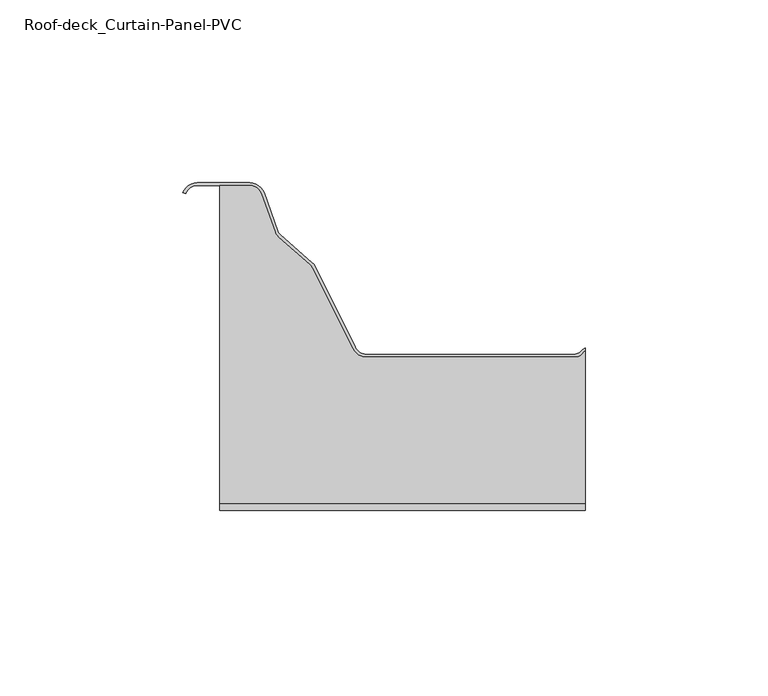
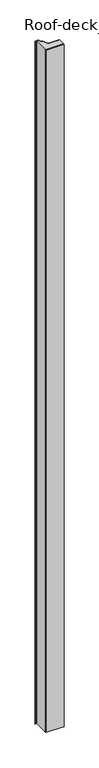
"""IFC4 building model written with IfcOpenShell, lengths in millimetres: plate geometry, Roof-deck_Curtain-Panel-PVC : ACH_Roof deck_MW_40 mm."""

from ifc_helpers import new_model, si_unit, point, frame_2d, origin, origin_with_axes, place, context, project, spatial, polyline, circle_curve, trimmed, segment, composite_curve, outline, extrude, source, transform, mapped, element, save


def roof_deck_curtain_panel_pvc_dbc530cd(model_context):
    return source(origin(), model_context, "Body", "SweptSolid", [
        extrude(outline(composite_curve([segment(polyline([(-50.0, -88.8), (-50.0, -1.8), (-41.8323638, -1.8)]), True, "CONTINUOUS"), segment(trimmed(circle_curve(frame_2d((-41.8323638, -5.2)), 3.4), [point((-41.8323638, -1.8))], [point((-38.6330749, -4.0491088))], False, "CARTESIAN"), True, "CONTINUOUS"), segment(polyline([(-38.6330749, -4.0491088), (-34.8455616, -14.5777749)]), True, "CONTINUOUS"), segment(trimmed(circle_curve(frame_2d((-31.9285629, -13.5284329)), 3.1), [point((-34.8455616, -14.5777749))], [point((-33.9696761, -15.8616403))], True, "CARTESIAN"), True, "CONTINUOUS"), segment(polyline([(-33.9696761, -15.8616403), (-25.3099327, -23.4372709)]), True, "CONTINUOUS"), segment(trimmed(circle_curve(frame_2d((-27.2193612, -25.6199488)), 2.9), [point((-25.3099327, -23.4372709))], [point((-24.6223111, -24.3294719))], False, "CARTESIAN"), True, "CONTINUOUS"), segment(polyline([(-24.6223111, -24.3294719), (-13.6487521, -46.4134657)]), True, "CONTINUOUS"), segment(trimmed(circle_curve(frame_2d((-9.7979536, -44.5)), 4.3), [point((-13.6487521, -46.4134657))], [point((-9.7979536, -48.8))], True, "CARTESIAN"), True, "CONTINUOUS"), segment(polyline([(-9.7979536, -48.8), (46.9819404, -48.8)]), True, "CONTINUOUS"), segment(trimmed(circle_curve(frame_2d((46.9819404, -45.7)), 3.1), [point((46.9819404, -48.8))], [point((49.1739715, -47.892031))], True, "CARTESIAN"), True, "CONTINUOUS"), segment(polyline([(49.1739715, -47.892031), (49.7941272, -47.2718753)]), True, "CONTINUOUS"), segment(trimmed(circle_curve(frame_2d((51.4672218, -50.0020238)), 3.2020238), [point((49.7941272, -47.2718753))], [point((50.0, -47.1559359))], False, "CARTESIAN"), True, "CONTINUOUS"), segment(polyline([(50.0, -47.1559359), (50.0, -88.8), (-50.0, -88.8)]), True, "CONTINUOUS")], self_intersect=False)), origin_with_axes(), (0.0, 0.0, 1.0), 4000.0),
        extrude(outline(composite_curve([segment(polyline([(-56.1676362, -1.0), (-41.8323638, -1.0)]), True, "CONTINUOUS"), segment(trimmed(circle_curve(frame_2d((-41.8323638, -5.2)), 4.2), [point((-41.8323638, -1.0))], [point((-37.880301, -3.7783109))], False, "CARTESIAN"), True, "CONTINUOUS"), segment(polyline([(-37.880301, -3.7783109), (-34.0927877, -14.3069769)]), True, "CONTINUOUS"), segment(trimmed(circle_curve(frame_2d((-31.9285629, -13.5284329)), 2.3), [point((-34.0927877, -14.3069769))], [point((-33.4429372, -15.2595222))], True, "CARTESIAN"), True, "CONTINUOUS"), segment(polyline([(-33.4429372, -15.2595222), (-24.7831938, -22.8351529)]), True, "CONTINUOUS"), segment(trimmed(circle_curve(frame_2d((-27.2193612, -25.6199488)), 3.7), [point((-24.7831938, -22.8351529))], [point((-23.9058834, -23.9734783))], False, "CARTESIAN"), True, "CONTINUOUS"), segment(polyline([(-23.9058834, -23.9734783), (-12.9323245, -46.0574721)]), True, "CONTINUOUS"), segment(trimmed(circle_curve(frame_2d((-9.7979536, -44.5)), 3.5), [point((-12.9323245, -46.0574721))], [point((-9.7979536, -48.0))], True, "CARTESIAN"), True, "CONTINUOUS"), segment(polyline([(-9.7979536, -48.0), (46.9819404, -48.0)]), True, "CONTINUOUS"), segment(trimmed(circle_curve(frame_2d((46.9819404, -45.7)), 2.3), [point((46.9819404, -48.0))], [point((48.608286, -47.3263456))], True, "CARTESIAN"), True, "CONTINUOUS"), segment(polyline([(48.608286, -47.3263456), (49.2916152, -46.6430165)]), True, "CONTINUOUS"), segment(trimmed(circle_curve(frame_2d((51.4672218, -50.0020238)), 4.0020238), [point((49.2916152, -46.6430165))], [point((50.0, -46.2786578))], False, "CARTESIAN"), True, "CONTINUOUS"), segment(polyline([(50.0, -46.2786578), (50.0, -47.1559359)]), True, "CONTINUOUS"), segment(trimmed(circle_curve(frame_2d((51.4672218, -50.0020238)), 3.2020238), [point((50.0, -47.1559359))], [point((49.7941272, -47.2718753))], True, "CARTESIAN"), True, "CONTINUOUS"), segment(polyline([(49.7941272, -47.2718753), (49.1739715, -47.892031)]), True, "CONTINUOUS"), segment(trimmed(circle_curve(frame_2d((46.9819404, -45.7)), 3.1), [point((49.1739715, -47.892031))], [point((46.9819404, -48.8))], False, "CARTESIAN"), True, "CONTINUOUS"), segment(polyline([(46.9819404, -48.8), (-9.7979536, -48.8)]), True, "CONTINUOUS"), segment(trimmed(circle_curve(frame_2d((-9.7979536, -44.5)), 4.3), [point((-9.7979536, -48.8))], [point((-13.6487521, -46.4134657))], False, "CARTESIAN"), True, "CONTINUOUS"), segment(polyline([(-13.6487521, -46.4134657), (-24.6223111, -24.3294719)]), True, "CONTINUOUS"), segment(trimmed(circle_curve(frame_2d((-27.2193612, -25.6199488)), 2.9), [point((-24.6223111, -24.3294719))], [point((-25.3099327, -23.4372709))], True, "CARTESIAN"), True, "CONTINUOUS"), segment(polyline([(-25.3099327, -23.4372709), (-33.9696761, -15.8616403)]), True, "CONTINUOUS"), segment(trimmed(circle_curve(frame_2d((-31.9285629, -13.5284329)), 3.1), [point((-33.9696761, -15.8616403))], [point((-34.8455616, -14.5777749))], False, "CARTESIAN"), True, "CONTINUOUS"), segment(polyline([(-34.8455616, -14.5777749), (-38.6330749, -4.0491088)]), True, "CONTINUOUS"), segment(trimmed(circle_curve(frame_2d((-41.8323638, -5.2)), 3.4), [point((-38.6330749, -4.0491088))], [point((-41.8323638, -1.8))], True, "CARTESIAN"), True, "CONTINUOUS"), segment(polyline([(-41.8323638, -1.8), (-56.1676362, -1.8)]), True, "CONTINUOUS"), segment(trimmed(circle_curve(frame_2d((-56.1676362, -5.2)), 3.4), [point((-56.1676362, -1.8))], [point((-59.3669251, -4.0491088))], True, "CARTESIAN"), True, "CONTINUOUS"), segment(polyline([(-59.3669251, -4.0491088), (-60.119699, -3.7783109)]), True, "CONTINUOUS"), segment(trimmed(circle_curve(frame_2d((-56.1676362, -5.2)), 4.2), [point((-60.119699, -3.7783109))], [point((-56.1676362, -1.0))], False, "CARTESIAN"), True, "CONTINUOUS")], self_intersect=False)), origin_with_axes(), (0.0, 0.0, 1.0), 4000.0),
        extrude(outline(polyline([(-50.0, -90.8), (-50.0, -88.8), (50.0, -88.8), (50.0, -90.8), (-50.0, -90.8)])), origin_with_axes(), (0.0, 0.0, 1.0), 4000.0),
    ])


if __name__ == "__main__":
    model = new_model("IFC4")
    model_context = context("Model", 3, world=origin())
    ifc_project = project(units=[si_unit("LENGTHUNIT", "METRE", prefix="MILLI")], contexts=[model_context])
    site = spatial("IfcSite", under=ifc_project)
    building = spatial("IfcBuilding", under=site)
    placement = place(None, origin())
    roof_deck_curtain_panel_pvc_shape = roof_deck_curtain_panel_pvc_dbc530cd(model_context)
    element("IfcPlate", 1, ObjectType="Roof-deck_Curtain-Panel-PVC : ACH_Roof deck_MW_40 mm", at=placement, inside=building, context=model_context, shape_type="MappedRepresentation", body=[
        mapped(roof_deck_curtain_panel_pvc_shape, transform((0.0, 0.0, 0.0), x_axis=(1.0, 0.0, 0.0), y_axis=(0.0, 1.0, 0.0), z_axis=(0.0, 0.0, 1.0))),
    ])
    save(model, "model.ifc")
